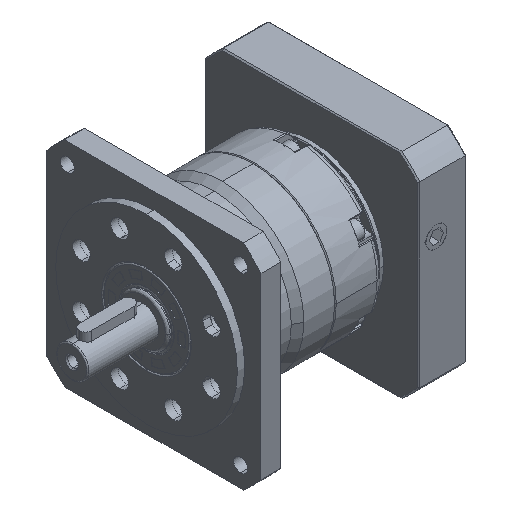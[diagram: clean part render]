
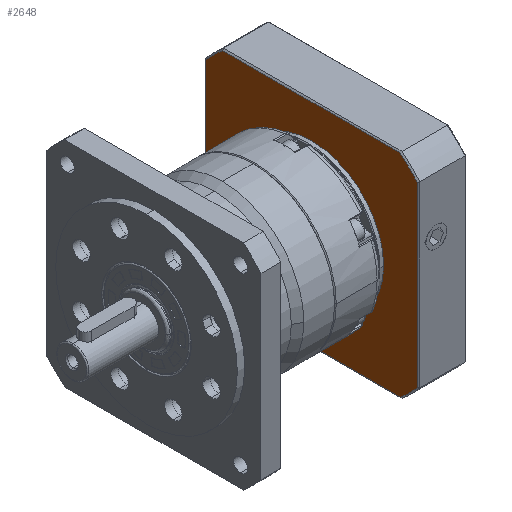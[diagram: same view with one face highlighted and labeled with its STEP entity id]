
A CAD part, isometric view. The second image highlights one B-rep face of the part: STEP entity #2648.
In plain terms, the highlighted planar face has unit normal (-1, 0, 0) as drawn and (0, 0, 1) by its records, which use the part's own axes.
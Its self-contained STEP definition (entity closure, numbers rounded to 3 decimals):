
#162 = DIRECTION ( 'NONE',  ( -1., 0., 0. ) ) ;
#222 = DIRECTION ( 'NONE',  ( -1., 0., 0. ) ) ;
#260 = CARTESIAN_POINT ( 'NONE',  ( -35.693, -42.5, 19.2 ) ) ;
#375 = VERTEX_POINT ( 'NONE', #260 ) ;
#432 = ORIENTED_EDGE ( 'NONE', *, *, #7925, .T. ) ;
#706 = DIRECTION ( 'NONE',  ( 0., 1., 0. ) ) ;
#747 = VERTEX_POINT ( 'NONE', #1774 ) ;
#1048 = DIRECTION ( 'NONE',  ( -1., 0., 0. ) ) ;
#1437 = VERTEX_POINT ( 'NONE', #11572 ) ;
#1673 = CARTESIAN_POINT ( 'NONE',  ( -42.5, -55.5, 19.2 ) ) ;
#1774 = CARTESIAN_POINT ( 'NONE',  ( 35.693, 42.5, 19.2 ) ) ;
#1782 = ORIENTED_EDGE ( 'NONE', *, *, #8071, .T. ) ;
#1792 = VECTOR ( 'NONE', #1048, 1000. ) ;
#1908 = CARTESIAN_POINT ( 'NONE',  ( 42.5, -35.693, 19.2 ) ) ;
#2015 = CIRCLE ( 'NONE', #16224, 55.5 ) ;
#2224 = CARTESIAN_POINT ( 'NONE',  ( 0., 0., 19.2 ) ) ;
#2291 = CARTESIAN_POINT ( 'NONE',  ( 0., 0., 19.2 ) ) ;
#2385 = ORIENTED_EDGE ( 'NONE', *, *, #21175, .T. ) ;
#2648 = ADVANCED_FACE ( 'NONE', ( #16404, #18306 ), #8532, .T. ) ;
#3187 = CARTESIAN_POINT ( 'NONE',  ( 0., -55.5, 19.2 ) ) ;
#4099 = LINE ( 'NONE', #1673, #14170 ) ;
#4680 = EDGE_CURVE ( 'NONE', #12417, #1437, #16220, .T. ) ;
#4947 = DIRECTION ( 'NONE',  ( 0., 0., -1. ) ) ;
#5027 = CARTESIAN_POINT ( 'NONE',  ( 42.5, -55.5, 19.2 ) ) ;
#5644 = CIRCLE ( 'NONE', #8896, 29. ) ;
#6237 = DIRECTION ( 'NONE',  ( 1., 0., 0. ) ) ;
#6283 = AXIS2_PLACEMENT_3D ( 'NONE', #6667, #14165, #21898 ) ;
#6508 = DIRECTION ( 'NONE',  ( 0., 0., 1. ) ) ;
#6621 = ORIENTED_EDGE ( 'NONE', *, *, #18486, .T. ) ;
#6635 = DIRECTION ( 'NONE',  ( 1., 0., 0. ) ) ;
#6667 = CARTESIAN_POINT ( 'NONE',  ( 0., 0., 19.2 ) ) ;
#6701 = EDGE_CURVE ( 'NONE', #18848, #12417, #2015, .T. ) ;
#6875 = CARTESIAN_POINT ( 'NONE',  ( 0., 0., 19.2 ) ) ;
#6978 = ORIENTED_EDGE ( 'NONE', *, *, #6701, .T. ) ;
#7261 = EDGE_LOOP ( 'NONE', ( #1782, #21352 ) ) ;
#7428 = AXIS2_PLACEMENT_3D ( 'NONE', #13391, #19602, #8044 ) ;
#7508 = CARTESIAN_POINT ( 'NONE',  ( -42.5, -35.693, 19.2 ) ) ;
#7824 = VERTEX_POINT ( 'NONE', #7508 ) ;
#7925 = EDGE_CURVE ( 'NONE', #375, #18848, #11959, .T. ) ;
#8044 = DIRECTION ( 'NONE',  ( -1., 0., 0. ) ) ;
#8071 = EDGE_CURVE ( 'NONE', #19730, #23643, #5644, .T. ) ;
#8532 = PLANE ( 'NONE',  #18151 ) ;
#8868 = EDGE_CURVE ( 'NONE', #1437, #747, #17965, .T. ) ;
#8896 = AXIS2_PLACEMENT_3D ( 'NONE', #6875, #4947, #14125 ) ;
#9181 = VECTOR ( 'NONE', #706, 1000. ) ;
#9473 = DIRECTION ( 'NONE',  ( 0., 0., 1. ) ) ;
#9867 = CIRCLE ( 'NONE', #7428, 55.5 ) ;
#9902 = EDGE_LOOP ( 'NONE', ( #24617, #2385, #6621, #22654, #22960, #432, #6978, #24069 ) ) ;
#10718 = LINE ( 'NONE', #18471, #1792 ) ;
#11572 = CARTESIAN_POINT ( 'NONE',  ( 42.5, 35.693, 19.2 ) ) ;
#11760 = AXIS2_PLACEMENT_3D ( 'NONE', #2291, #19824, #14126 ) ;
#11959 = LINE ( 'NONE', #23613, #19437 ) ;
#12035 = CARTESIAN_POINT ( 'NONE',  ( -29., 0., 19.2 ) ) ;
#12417 = VERTEX_POINT ( 'NONE', #1908 ) ;
#13391 = CARTESIAN_POINT ( 'NONE',  ( 0., 0., 19.2 ) ) ;
#13640 = DIRECTION ( 'NONE',  ( 0., -1., 0. ) ) ;
#14125 = DIRECTION ( 'NONE',  ( 1., 0., 0. ) ) ;
#14126 = DIRECTION ( 'NONE',  ( -1., 0., 0. ) ) ;
#14165 = DIRECTION ( 'NONE',  ( 0., 0., -1. ) ) ;
#14170 = VECTOR ( 'NONE', #13640, 1000. ) ;
#14992 = CARTESIAN_POINT ( 'NONE',  ( -42.5, 35.693, 19.2 ) ) ;
#16220 = LINE ( 'NONE', #5027, #9181 ) ;
#16224 = AXIS2_PLACEMENT_3D ( 'NONE', #21203, #21585, #222 ) ;
#16273 = EDGE_CURVE ( 'NONE', #17470, #7824, #4099, .T. ) ;
#16404 = FACE_BOUND ( 'NONE', #7261, .T. ) ;
#17142 = AXIS2_PLACEMENT_3D ( 'NONE', #2224, #9473, #162 ) ;
#17227 = CIRCLE ( 'NONE', #6283, 29. ) ;
#17231 = EDGE_CURVE ( 'NONE', #7824, #375, #22702, .T. ) ;
#17470 = VERTEX_POINT ( 'NONE', #14992 ) ;
#17524 = CARTESIAN_POINT ( 'NONE',  ( -35.693, 42.5, 19.2 ) ) ;
#17965 = CIRCLE ( 'NONE', #17142, 55.5 ) ;
#18151 = AXIS2_PLACEMENT_3D ( 'NONE', #3187, #6508, #6635 ) ;
#18306 = FACE_OUTER_BOUND ( 'NONE', #9902, .T. ) ;
#18471 = CARTESIAN_POINT ( 'NONE',  ( 0., 42.5, 19.2 ) ) ;
#18486 = EDGE_CURVE ( 'NONE', #24226, #17470, #9867, .T. ) ;
#18848 = VERTEX_POINT ( 'NONE', #20941 ) ;
#19437 = VECTOR ( 'NONE', #6237, 1000. ) ;
#19602 = DIRECTION ( 'NONE',  ( 0., 0., 1. ) ) ;
#19730 = VERTEX_POINT ( 'NONE', #22671 ) ;
#19824 = DIRECTION ( 'NONE',  ( 0., 0., 1. ) ) ;
#20941 = CARTESIAN_POINT ( 'NONE',  ( 35.693, -42.5, 19.2 ) ) ;
#20970 = EDGE_CURVE ( 'NONE', #23643, #19730, #17227, .T. ) ;
#21175 = EDGE_CURVE ( 'NONE', #747, #24226, #10718, .T. ) ;
#21203 = CARTESIAN_POINT ( 'NONE',  ( 0., 0., 19.2 ) ) ;
#21352 = ORIENTED_EDGE ( 'NONE', *, *, #20970, .T. ) ;
#21585 = DIRECTION ( 'NONE',  ( 0., 0., 1. ) ) ;
#21898 = DIRECTION ( 'NONE',  ( 1., 0., 0. ) ) ;
#22654 = ORIENTED_EDGE ( 'NONE', *, *, #16273, .T. ) ;
#22671 = CARTESIAN_POINT ( 'NONE',  ( 29., 0., 19.2 ) ) ;
#22702 = CIRCLE ( 'NONE', #11760, 55.5 ) ;
#22960 = ORIENTED_EDGE ( 'NONE', *, *, #17231, .T. ) ;
#23613 = CARTESIAN_POINT ( 'NONE',  ( 0., -42.5, 19.2 ) ) ;
#23643 = VERTEX_POINT ( 'NONE', #12035 ) ;
#24069 = ORIENTED_EDGE ( 'NONE', *, *, #4680, .T. ) ;
#24226 = VERTEX_POINT ( 'NONE', #17524 ) ;
#24617 = ORIENTED_EDGE ( 'NONE', *, *, #8868, .T. ) ;
